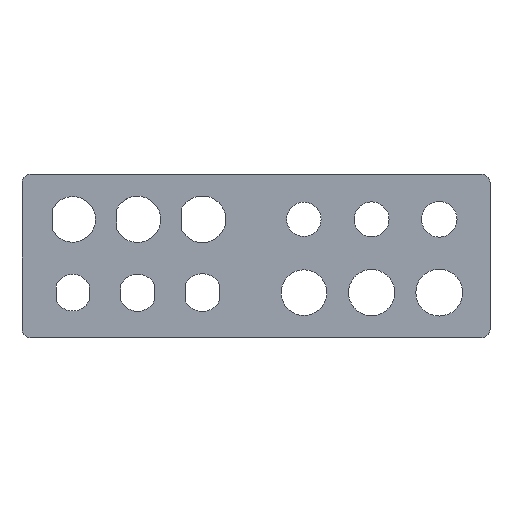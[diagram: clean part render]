
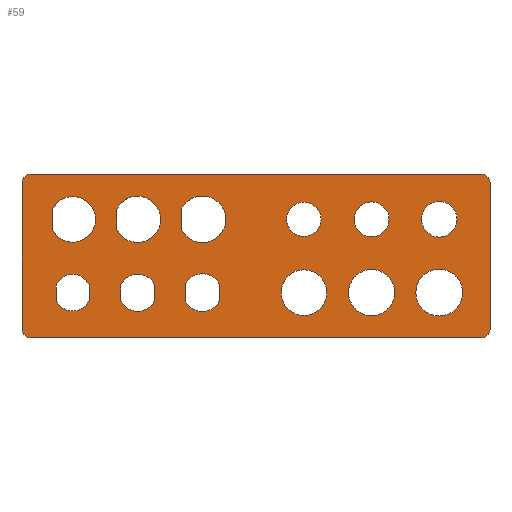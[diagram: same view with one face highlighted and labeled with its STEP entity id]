
A CAD part, top view. The second image highlights one B-rep face of the part: STEP entity #59.
In plain terms, the highlighted planar face has unit normal (0, 0, 1).
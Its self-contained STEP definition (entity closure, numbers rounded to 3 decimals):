
#21 = EDGE_CURVE('',#22,#24,#26,.T.);
#22 = VERTEX_POINT('',#23);
#23 = CARTESIAN_POINT('',(0.,3.,3.));
#24 = VERTEX_POINT('',#25);
#25 = CARTESIAN_POINT('',(3.,0.,3.));
#26 = CIRCLE('',#27,3.);
#27 = AXIS2_PLACEMENT_3D('',#28,#29,#30);
#28 = CARTESIAN_POINT('',(3.,3.,3.));
#29 = DIRECTION('',(0.,0.,1.));
#30 = DIRECTION('',(1.,0.,-0.));
#59 = ADVANCED_FACE('',(#60,#120,#156,#192,#228,#239,#250,#261,#280,#299
    ,#318,#329,#340),#351,.T.);
#60 = FACE_BOUND('',#61,.T.);
#61 = EDGE_LOOP('',(#62,#63,#71,#80,#88,#97,#105,#114));
#62 = ORIENTED_EDGE('',*,*,#21,.T.);
#63 = ORIENTED_EDGE('',*,*,#64,.T.);
#64 = EDGE_CURVE('',#24,#65,#67,.T.);
#65 = VERTEX_POINT('',#66);
#66 = CARTESIAN_POINT('',(163.,0.,3.));
#67 = LINE('',#68,#69);
#68 = CARTESIAN_POINT('',(3.,0.,3.));
#69 = VECTOR('',#70,1.);
#70 = DIRECTION('',(1.,0.,-0.));
#71 = ORIENTED_EDGE('',*,*,#72,.T.);
#72 = EDGE_CURVE('',#65,#73,#75,.T.);
#73 = VERTEX_POINT('',#74);
#74 = CARTESIAN_POINT('',(166.,3.,3.));
#75 = CIRCLE('',#76,3.);
#76 = AXIS2_PLACEMENT_3D('',#77,#78,#79);
#77 = CARTESIAN_POINT('',(163.,3.,3.));
#78 = DIRECTION('',(0.,0.,1.));
#79 = DIRECTION('',(1.,0.,-0.));
#80 = ORIENTED_EDGE('',*,*,#81,.T.);
#81 = EDGE_CURVE('',#73,#82,#84,.T.);
#82 = VERTEX_POINT('',#83);
#83 = CARTESIAN_POINT('',(166.,55.,3.));
#84 = LINE('',#85,#86);
#85 = CARTESIAN_POINT('',(166.,3.,3.));
#86 = VECTOR('',#87,1.);
#87 = DIRECTION('',(-0.,1.,0.));
#88 = ORIENTED_EDGE('',*,*,#89,.T.);
#89 = EDGE_CURVE('',#82,#90,#92,.T.);
#90 = VERTEX_POINT('',#91);
#91 = CARTESIAN_POINT('',(163.,58.,3.));
#92 = CIRCLE('',#93,3.);
#93 = AXIS2_PLACEMENT_3D('',#94,#95,#96);
#94 = CARTESIAN_POINT('',(163.,55.,3.));
#95 = DIRECTION('',(0.,0.,1.));
#96 = DIRECTION('',(1.,0.,-0.));
#97 = ORIENTED_EDGE('',*,*,#98,.F.);
#98 = EDGE_CURVE('',#99,#90,#101,.T.);
#99 = VERTEX_POINT('',#100);
#100 = CARTESIAN_POINT('',(3.,58.,3.));
#101 = LINE('',#102,#103);
#102 = CARTESIAN_POINT('',(3.,58.,3.));
#103 = VECTOR('',#104,1.);
#104 = DIRECTION('',(1.,0.,-0.));
#105 = ORIENTED_EDGE('',*,*,#106,.T.);
#106 = EDGE_CURVE('',#99,#107,#109,.T.);
#107 = VERTEX_POINT('',#108);
#108 = CARTESIAN_POINT('',(0.,55.,3.));
#109 = CIRCLE('',#110,3.);
#110 = AXIS2_PLACEMENT_3D('',#111,#112,#113);
#111 = CARTESIAN_POINT('',(3.,55.,3.));
#112 = DIRECTION('',(0.,0.,1.));
#113 = DIRECTION('',(1.,0.,-0.));
#114 = ORIENTED_EDGE('',*,*,#115,.F.);
#115 = EDGE_CURVE('',#22,#107,#116,.T.);
#116 = LINE('',#117,#118);
#117 = CARTESIAN_POINT('',(0.,3.,3.));
#118 = VECTOR('',#119,1.);
#119 = DIRECTION('',(-0.,1.,0.));
#120 = FACE_BOUND('',#121,.T.);
#121 = EDGE_LOOP('',(#122,#133,#141,#150));
#122 = ORIENTED_EDGE('',*,*,#123,.F.);
#123 = EDGE_CURVE('',#124,#126,#128,.T.);
#124 = VERTEX_POINT('',#125);
#125 = CARTESIAN_POINT('',(12.1,13.272,3.));
#126 = VERTEX_POINT('',#127);
#127 = CARTESIAN_POINT('',(23.9,13.272,3.));
#128 = CIRCLE('',#129,6.5);
#129 = AXIS2_PLACEMENT_3D('',#130,#131,#132);
#130 = CARTESIAN_POINT('',(18.,16.,3.));
#131 = DIRECTION('',(0.,0.,1.));
#132 = DIRECTION('',(1.,0.,-0.));
#133 = ORIENTED_EDGE('',*,*,#134,.T.);
#134 = EDGE_CURVE('',#124,#135,#137,.T.);
#135 = VERTEX_POINT('',#136);
#136 = CARTESIAN_POINT('',(12.1,18.728,3.));
#137 = LINE('',#138,#139);
#138 = CARTESIAN_POINT('',(12.1,18.75,3.));
#139 = VECTOR('',#140,1.);
#140 = DIRECTION('',(-0.,1.,0.));
#141 = ORIENTED_EDGE('',*,*,#142,.F.);
#142 = EDGE_CURVE('',#143,#135,#145,.T.);
#143 = VERTEX_POINT('',#144);
#144 = CARTESIAN_POINT('',(23.9,18.728,3.));
#145 = CIRCLE('',#146,6.5);
#146 = AXIS2_PLACEMENT_3D('',#147,#148,#149);
#147 = CARTESIAN_POINT('',(18.,16.,3.));
#148 = DIRECTION('',(0.,0.,1.));
#149 = DIRECTION('',(1.,0.,-0.));
#150 = ORIENTED_EDGE('',*,*,#151,.F.);
#151 = EDGE_CURVE('',#126,#143,#152,.T.);
#152 = LINE('',#153,#154);
#153 = CARTESIAN_POINT('',(23.9,18.75,3.));
#154 = VECTOR('',#155,1.);
#155 = DIRECTION('',(-0.,1.,0.));
#156 = FACE_BOUND('',#157,.T.);
#157 = EDGE_LOOP('',(#158,#169,#177,#186));
#158 = ORIENTED_EDGE('',*,*,#159,.F.);
#159 = EDGE_CURVE('',#160,#162,#164,.T.);
#160 = VERTEX_POINT('',#161);
#161 = CARTESIAN_POINT('',(35.,13.25,3.));
#162 = VERTEX_POINT('',#163);
#163 = CARTESIAN_POINT('',(47.,13.25,3.));
#164 = CIRCLE('',#165,6.6);
#165 = AXIS2_PLACEMENT_3D('',#166,#167,#168);
#166 = CARTESIAN_POINT('',(41.,16.,3.));
#167 = DIRECTION('',(0.,0.,1.));
#168 = DIRECTION('',(1.,0.,-0.));
#169 = ORIENTED_EDGE('',*,*,#170,.T.);
#170 = EDGE_CURVE('',#160,#171,#173,.T.);
#171 = VERTEX_POINT('',#172);
#172 = CARTESIAN_POINT('',(35.,18.75,3.));
#173 = LINE('',#174,#175);
#174 = CARTESIAN_POINT('',(35.,18.7,3.));
#175 = VECTOR('',#176,1.);
#176 = DIRECTION('',(-0.,1.,0.));
#177 = ORIENTED_EDGE('',*,*,#178,.F.);
#178 = EDGE_CURVE('',#179,#171,#181,.T.);
#179 = VERTEX_POINT('',#180);
#180 = CARTESIAN_POINT('',(47.,18.75,3.));
#181 = CIRCLE('',#182,6.6);
#182 = AXIS2_PLACEMENT_3D('',#183,#184,#185);
#183 = CARTESIAN_POINT('',(41.,16.,3.));
#184 = DIRECTION('',(0.,0.,1.));
#185 = DIRECTION('',(1.,0.,-0.));
#186 = ORIENTED_EDGE('',*,*,#187,.F.);
#187 = EDGE_CURVE('',#162,#179,#188,.T.);
#188 = LINE('',#189,#190);
#189 = CARTESIAN_POINT('',(47.,18.7,3.));
#190 = VECTOR('',#191,1.);
#191 = DIRECTION('',(-0.,1.,0.));
#192 = FACE_BOUND('',#193,.T.);
#193 = EDGE_LOOP('',(#194,#205,#213,#222));
#194 = ORIENTED_EDGE('',*,*,#195,.F.);
#195 = EDGE_CURVE('',#196,#198,#200,.T.);
#196 = VERTEX_POINT('',#197);
#197 = CARTESIAN_POINT('',(57.9,13.229,3.));
#198 = VERTEX_POINT('',#199);
#199 = CARTESIAN_POINT('',(70.1,13.229,3.));
#200 = CIRCLE('',#201,6.7);
#201 = AXIS2_PLACEMENT_3D('',#202,#203,#204);
#202 = CARTESIAN_POINT('',(64.,16.,3.));
#203 = DIRECTION('',(0.,0.,1.));
#204 = DIRECTION('',(1.,0.,-0.));
#205 = ORIENTED_EDGE('',*,*,#206,.T.);
#206 = EDGE_CURVE('',#196,#207,#209,.T.);
#207 = VERTEX_POINT('',#208);
#208 = CARTESIAN_POINT('',(57.9,18.771,3.));
#209 = LINE('',#210,#211);
#210 = CARTESIAN_POINT('',(57.9,18.65,3.));
#211 = VECTOR('',#212,1.);
#212 = DIRECTION('',(-0.,1.,0.));
#213 = ORIENTED_EDGE('',*,*,#214,.F.);
#214 = EDGE_CURVE('',#215,#207,#217,.T.);
#215 = VERTEX_POINT('',#216);
#216 = CARTESIAN_POINT('',(70.1,18.771,3.));
#217 = CIRCLE('',#218,6.7);
#218 = AXIS2_PLACEMENT_3D('',#219,#220,#221);
#219 = CARTESIAN_POINT('',(64.,16.,3.));
#220 = DIRECTION('',(0.,0.,1.));
#221 = DIRECTION('',(1.,0.,-0.));
#222 = ORIENTED_EDGE('',*,*,#223,.F.);
#223 = EDGE_CURVE('',#198,#215,#224,.T.);
#224 = LINE('',#225,#226);
#225 = CARTESIAN_POINT('',(70.1,18.65,3.));
#226 = VECTOR('',#227,1.);
#227 = DIRECTION('',(-0.,1.,0.));
#228 = FACE_BOUND('',#229,.T.);
#229 = EDGE_LOOP('',(#230));
#230 = ORIENTED_EDGE('',*,*,#231,.F.);
#231 = EDGE_CURVE('',#232,#232,#234,.T.);
#232 = VERTEX_POINT('',#233);
#233 = CARTESIAN_POINT('',(108.1,16.,3.));
#234 = CIRCLE('',#235,8.1);
#235 = AXIS2_PLACEMENT_3D('',#236,#237,#238);
#236 = CARTESIAN_POINT('',(100.,16.,3.));
#237 = DIRECTION('',(0.,0.,1.));
#238 = DIRECTION('',(1.,0.,-0.));
#239 = FACE_BOUND('',#240,.T.);
#240 = EDGE_LOOP('',(#241));
#241 = ORIENTED_EDGE('',*,*,#242,.F.);
#242 = EDGE_CURVE('',#243,#243,#245,.T.);
#243 = VERTEX_POINT('',#244);
#244 = CARTESIAN_POINT('',(132.2,16.,3.));
#245 = CIRCLE('',#246,8.2);
#246 = AXIS2_PLACEMENT_3D('',#247,#248,#249);
#247 = CARTESIAN_POINT('',(124.,16.,3.));
#248 = DIRECTION('',(0.,0.,1.));
#249 = DIRECTION('',(1.,0.,-0.));
#250 = FACE_BOUND('',#251,.T.);
#251 = EDGE_LOOP('',(#252));
#252 = ORIENTED_EDGE('',*,*,#253,.F.);
#253 = EDGE_CURVE('',#254,#254,#256,.T.);
#254 = VERTEX_POINT('',#255);
#255 = CARTESIAN_POINT('',(156.3,16.,3.));
#256 = CIRCLE('',#257,8.3);
#257 = AXIS2_PLACEMENT_3D('',#258,#259,#260);
#258 = CARTESIAN_POINT('',(148.,16.,3.));
#259 = DIRECTION('',(0.,0.,1.));
#260 = DIRECTION('',(1.,0.,-0.));
#261 = FACE_BOUND('',#262,.T.);
#262 = EDGE_LOOP('',(#263,#274));
#263 = ORIENTED_EDGE('',*,*,#264,.F.);
#264 = EDGE_CURVE('',#265,#267,#269,.T.);
#265 = VERTEX_POINT('',#266);
#266 = CARTESIAN_POINT('',(10.7,38.49,3.));
#267 = VERTEX_POINT('',#268);
#268 = CARTESIAN_POINT('',(10.7,45.51,3.));
#269 = CIRCLE('',#270,8.1);
#270 = AXIS2_PLACEMENT_3D('',#271,#272,#273);
#271 = CARTESIAN_POINT('',(18.,42.,3.));
#272 = DIRECTION('',(0.,0.,1.));
#273 = DIRECTION('',(1.,0.,-0.));
#274 = ORIENTED_EDGE('',*,*,#275,.T.);
#275 = EDGE_CURVE('',#265,#267,#276,.T.);
#276 = LINE('',#277,#278);
#277 = CARTESIAN_POINT('',(10.7,30.95,3.));
#278 = VECTOR('',#279,1.);
#279 = DIRECTION('',(-0.,1.,0.));
#280 = FACE_BOUND('',#281,.T.);
#281 = EDGE_LOOP('',(#282,#293));
#282 = ORIENTED_EDGE('',*,*,#283,.F.);
#283 = EDGE_CURVE('',#284,#286,#288,.T.);
#284 = VERTEX_POINT('',#285);
#285 = CARTESIAN_POINT('',(33.6,38.467,3.));
#286 = VERTEX_POINT('',#287);
#287 = CARTESIAN_POINT('',(33.6,45.533,3.));
#288 = CIRCLE('',#289,8.2);
#289 = AXIS2_PLACEMENT_3D('',#290,#291,#292);
#290 = CARTESIAN_POINT('',(41.,42.,3.));
#291 = DIRECTION('',(0.,0.,1.));
#292 = DIRECTION('',(1.,0.,-0.));
#293 = ORIENTED_EDGE('',*,*,#294,.T.);
#294 = EDGE_CURVE('',#284,#286,#295,.T.);
#295 = LINE('',#296,#297);
#296 = CARTESIAN_POINT('',(33.6,30.9,3.));
#297 = VECTOR('',#298,1.);
#298 = DIRECTION('',(-0.,1.,0.));
#299 = FACE_BOUND('',#300,.T.);
#300 = EDGE_LOOP('',(#301,#312));
#301 = ORIENTED_EDGE('',*,*,#302,.F.);
#302 = EDGE_CURVE('',#303,#305,#307,.T.);
#303 = VERTEX_POINT('',#304);
#304 = CARTESIAN_POINT('',(56.5,38.445,3.));
#305 = VERTEX_POINT('',#306);
#306 = CARTESIAN_POINT('',(56.5,45.555,3.));
#307 = CIRCLE('',#308,8.3);
#308 = AXIS2_PLACEMENT_3D('',#309,#310,#311);
#309 = CARTESIAN_POINT('',(64.,42.,3.));
#310 = DIRECTION('',(0.,0.,1.));
#311 = DIRECTION('',(1.,0.,-0.));
#312 = ORIENTED_EDGE('',*,*,#313,.T.);
#313 = EDGE_CURVE('',#303,#305,#314,.T.);
#314 = LINE('',#315,#316);
#315 = CARTESIAN_POINT('',(56.5,30.85,3.));
#316 = VECTOR('',#317,1.);
#317 = DIRECTION('',(-0.,1.,0.));
#318 = FACE_BOUND('',#319,.T.);
#319 = EDGE_LOOP('',(#320));
#320 = ORIENTED_EDGE('',*,*,#321,.F.);
#321 = EDGE_CURVE('',#322,#322,#324,.T.);
#322 = VERTEX_POINT('',#323);
#323 = CARTESIAN_POINT('',(106.1,42.,3.));
#324 = CIRCLE('',#325,6.1);
#325 = AXIS2_PLACEMENT_3D('',#326,#327,#328);
#326 = CARTESIAN_POINT('',(100.,42.,3.));
#327 = DIRECTION('',(0.,0.,1.));
#328 = DIRECTION('',(1.,0.,-0.));
#329 = FACE_BOUND('',#330,.T.);
#330 = EDGE_LOOP('',(#331));
#331 = ORIENTED_EDGE('',*,*,#332,.F.);
#332 = EDGE_CURVE('',#333,#333,#335,.T.);
#333 = VERTEX_POINT('',#334);
#334 = CARTESIAN_POINT('',(130.2,42.,3.));
#335 = CIRCLE('',#336,6.2);
#336 = AXIS2_PLACEMENT_3D('',#337,#338,#339);
#337 = CARTESIAN_POINT('',(124.,42.,3.));
#338 = DIRECTION('',(0.,0.,1.));
#339 = DIRECTION('',(1.,0.,-0.));
#340 = FACE_BOUND('',#341,.T.);
#341 = EDGE_LOOP('',(#342));
#342 = ORIENTED_EDGE('',*,*,#343,.F.);
#343 = EDGE_CURVE('',#344,#344,#346,.T.);
#344 = VERTEX_POINT('',#345);
#345 = CARTESIAN_POINT('',(154.3,42.,3.));
#346 = CIRCLE('',#347,6.3);
#347 = AXIS2_PLACEMENT_3D('',#348,#349,#350);
#348 = CARTESIAN_POINT('',(148.,42.,3.));
#349 = DIRECTION('',(0.,0.,1.));
#350 = DIRECTION('',(1.,0.,-0.));
#351 = PLANE('',#352);
#352 = AXIS2_PLACEMENT_3D('',#353,#354,#355);
#353 = CARTESIAN_POINT('',(83.,29.,3.));
#354 = DIRECTION('',(0.,0.,1.));
#355 = DIRECTION('',(1.,0.,-0.));
